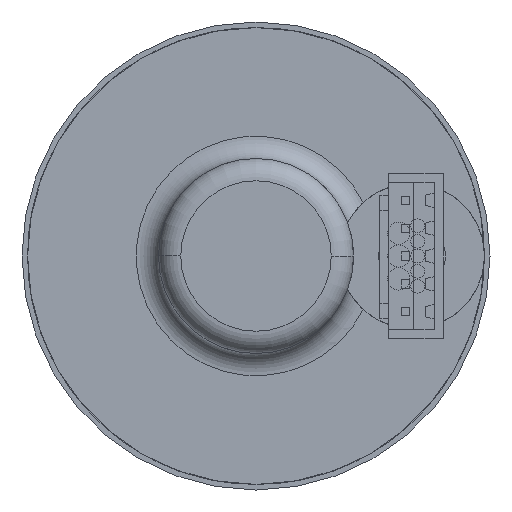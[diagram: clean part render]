
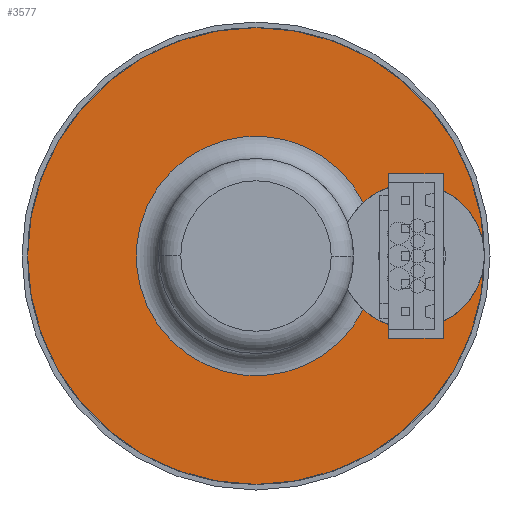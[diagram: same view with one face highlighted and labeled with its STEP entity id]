
A CAD part, front view. The second image highlights one B-rep face of the part: STEP entity #3577.
In plain terms, the highlighted planar face has unit normal (0, -1, 0).
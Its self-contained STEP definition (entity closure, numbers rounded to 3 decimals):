
#1094=CARTESIAN_POINT('',(0.,1.4,0.));
#1095=DIRECTION('',(0.,-1.,0.));
#1096=DIRECTION('',(-1.,0.,0.));
#1097=AXIS2_PLACEMENT_3D('',#1094,#1095,#1096);
#1199=CARTESIAN_POINT('',(0.,1.4,0.));
#1200=DIRECTION('',(0.,1.,0.));
#1201=DIRECTION('',(0.895,0.,-0.447));
#1202=AXIS2_PLACEMENT_3D('',#1199,#1200,#1201);
#1213=CARTESIAN_POINT('',(9.618,1.4,-4.801));
#1220=CARTESIAN_POINT('',(9.618,1.4,4.801));
#1231=CARTESIAN_POINT('',(14.,1.4,0.));
#1232=DIRECTION('',(0.,1.,0.));
#1233=DIRECTION('',(-0.674,0.,0.739));
#1234=AXIS2_PLACEMENT_3D('',#1231,#1232,#1233);
#1236=CARTESIAN_POINT('',(14.,1.4,0.));
#1237=DIRECTION('',(0.,1.,0.));
#1238=DIRECTION('',(1.,0.,0.));
#1239=AXIS2_PLACEMENT_3D('',#1236,#1237,#1238);
#1543=CARTESIAN_POINT('',(0.,1.4,0.));
#1544=DIRECTION('',(0.,1.,0.));
#1545=DIRECTION('',(-1.,0.,0.));
#1546=AXIS2_PLACEMENT_3D('',#1543,#1544,#1545);
#1684=CARTESIAN_POINT('',(-20.5,1.4,0.));
#1685=VERTEX_POINT('',#1684);
#1686=CARTESIAN_POINT('',(20.5,1.4,0.));
#1687=VERTEX_POINT('',#1686);
#1874=VERTEX_POINT('',#1213);
#1875=VERTEX_POINT('',#1220);
#3561=CARTESIAN_POINT('',(0.,1.4,0.));
#3562=DIRECTION('',(0.,-1.,0.));
#3563=DIRECTION('',(-1.,0.,0.));
#3564=AXIS2_PLACEMENT_3D('',#3561,#3562,#3563);
#3565=PLANE('',#3564);
#3567=ORIENTED_EDGE('',*,*,#3566,.F.);
#3569=ORIENTED_EDGE('',*,*,#3568,.F.);
#3570=ORIENTED_EDGE('',*,*,#3551,.F.);
#3572=ORIENTED_EDGE('',*,*,#3571,.T.);
#3574=ORIENTED_EDGE('',*,*,#3573,.F.);
#3575=EDGE_LOOP('',(#3567,#3569,#3570,#3572,#3574));
#3576=FACE_OUTER_BOUND('',#3575,.F.);
#3577=ADVANCED_FACE('',(#3576),#3565,.T.);
#1098=CIRCLE('',#1097,20.5);
#1203=CIRCLE('',#1202,10.75);
#1235=CIRCLE('',#1234,6.5);
#1240=CIRCLE('',#1239,6.5);
#1547=CIRCLE('',#1546,20.5);
#3551=EDGE_CURVE('',#1685,#1687,#1098,.T.);
#3566=EDGE_CURVE('',#1874,#1875,#1203,.T.);
#3568=EDGE_CURVE('',#1687,#1874,#1240,.T.);
#3571=EDGE_CURVE('',#1685,#1687,#1547,.T.);
#3573=EDGE_CURVE('',#1875,#1687,#1235,.T.);
